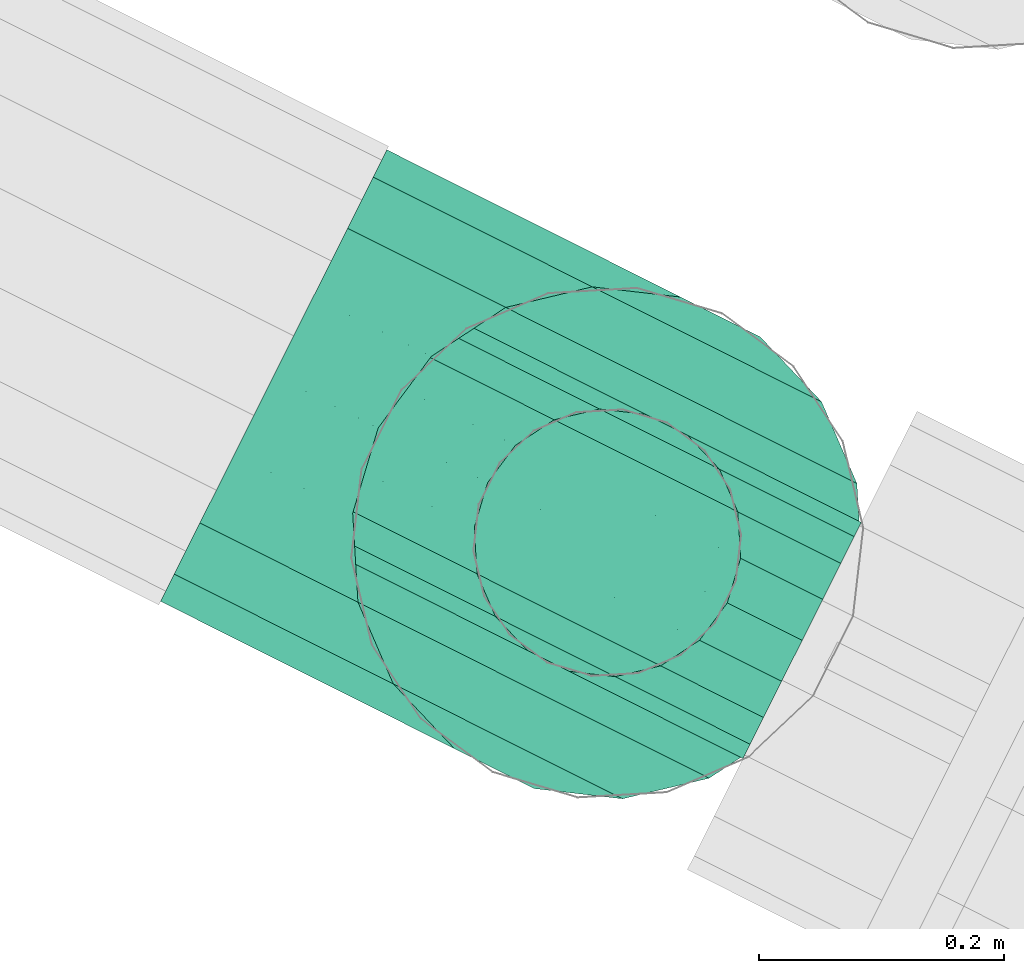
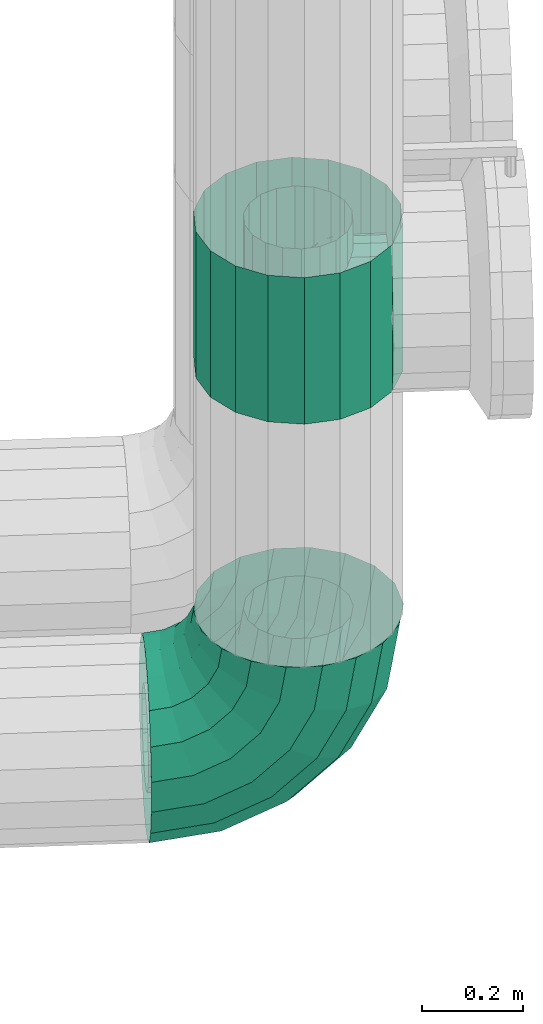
# One storey, part 6 of 11: 1 flow fitting, 1 flow segment.
"""IFC2X3 building model written with IfcOpenShell, lengths in metres."""

from ifc_helpers import new_model, si_unit, derived_unit, direction, frame, origin, place, context, subcontext, project, spatial, face_set, surface_model, source, transform, mapped, material, type_object, type_shapes, element, save


model = new_model("IFC2X3")

# Units and contexts
model_context = context("Model", 3, precision=5.2338327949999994e-05, world=origin(), true_north=direction((0.0, 1.0)))
body_context = subcontext(model_context, "Body", "Model", "MODEL_VIEW")
ifc_project = project(units=[si_unit("LENGTHUNIT", "METRE"), si_unit("AREAUNIT", "SQUARE_METRE"), si_unit("VOLUMEUNIT", "CUBIC_METRE"), si_unit("MASSUNIT", "GRAM", prefix="KILO"), si_unit("PLANEANGLEUNIT", "RADIAN"), derived_unit("THERMALTRANSMITTANCEUNIT", [(si_unit("MASSUNIT", "GRAM", prefix="KILO"), 1), (si_unit("THERMODYNAMICTEMPERATUREUNIT", "KELVIN"), -1), (si_unit("TIMEUNIT", "SECOND"), -3)])], contexts=[model_context])

# Site, building, storey
site_placement = place(None, frame((0.0, 0.0, 0.0), z_axis=(0.0, 0.0, 1.0), x_axis=(0.8939966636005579, -0.4480736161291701, 0.0)))
site = spatial("IfcSite", under=ifc_project, at=site_placement, Name="Default", CompositionType="ELEMENT")
building_placement = place(site_placement, origin())
building = spatial("IfcBuilding", under=site, at=building_placement, CompositionType="ELEMENT")
storey_placement = place(building_placement, frame((0.0, 0.0, -2.7499999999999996)))
storey = spatial("IfcBuildingStorey", under=building, at=storey_placement, Name="1. Untergeschoss", CompositionType="ELEMENT", Elevation=-2.7499999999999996)

# Flow segment
ifc_material = material(Name="IfcSurfaceStyle #9317")
distribution_element_type_1 = type_object("IfcDistributionElementType", Name="Rohrbogen 852507:Rohrbogen 852507", material=ifc_material)
shared_shape_1 = source(origin(), body_context, "Body", "SurfaceModel", [
    surface_model("IfcFaceBasedSurfaceModel", [(1.0258199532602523, 7.3272083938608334, -1.774), (1.019213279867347, 7.2897400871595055, -1.774), (0.999247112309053, 7.2897400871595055, -1.9000614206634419), (1.0055304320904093, 7.3272083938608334, -1.9021029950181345), (0.9413030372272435, 7.289740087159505, -2.0137830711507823), (0.9466479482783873, 7.32720839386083, -2.0176663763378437), (0.8510530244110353, 7.289740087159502, -2.104033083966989), (0.8549363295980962, 7.32720839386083, -2.1093779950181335), (0.7373313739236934, 7.289740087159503, -2.161977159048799), (0.7393729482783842, 7.327208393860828, -2.168260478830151), (0.6112699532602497, 7.2897400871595, -2.181943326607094), (0.6112699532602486, 7.327208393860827, -2.1885499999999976), (1.0001901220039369, 7.256791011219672, -1.7739999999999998), (0.9811550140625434, 7.256791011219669, -1.8941829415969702), (0.9259129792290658, 7.256791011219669, -2.0026015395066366), (0.8398714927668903, 7.2567910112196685, -2.0886430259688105), (0.731452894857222, 7.256791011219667, -2.1438850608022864), (0.611269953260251, 7.256791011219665, -2.162920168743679), (0.971044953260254, 7.2323353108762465, -1.7739999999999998), (0.9534363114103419, 7.2323353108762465, -1.8851765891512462), (0.9023340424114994, 7.232335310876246, -1.9854704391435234), (0.8227403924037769, 7.232335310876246, -2.065064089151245), (0.7224465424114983, 7.232335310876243, -2.116166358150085), (0.6112699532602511, 7.232335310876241, -2.1337749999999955), (0.9352931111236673, 7.219322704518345, -1.7739999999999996), (0.919434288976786, 7.219322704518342, -1.87412866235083), (0.873410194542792, 7.219322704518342, -1.9644560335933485), (0.8017259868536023, 7.2193227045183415, -2.036140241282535), (0.7113986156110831, 7.2193227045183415, -2.0821643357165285), (0.6112699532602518, 7.21932270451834, -2.098023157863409), (0.8972467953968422, 7.219322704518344, -1.773999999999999), (0.8832500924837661, 7.219322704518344, -1.8623717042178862), (0.842630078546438, 7.219322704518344, -1.9420929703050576), (0.7793629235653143, 7.2193227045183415, -2.00536012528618), (0.6996416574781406, 7.2193227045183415, -2.04598013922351), (0.6112699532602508, 7.219322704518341, -2.059976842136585), (0.8614949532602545, 7.232335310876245, -1.7739999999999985), (0.8492480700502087, 7.232335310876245, -1.8513237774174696), (0.8137062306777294, 7.232335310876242, -1.9210785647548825), (0.7583485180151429, 7.232335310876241, -1.9764362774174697), (0.6885937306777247, 7.232335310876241, -2.011978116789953), (0.6112699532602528, 7.232335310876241, -2.024224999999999), (0.8323497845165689, 7.2567910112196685, -1.773999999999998), (0.8215293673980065, 7.256791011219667, -1.8423174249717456), (0.7901272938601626, 7.256791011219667, -1.903947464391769), (0.7412174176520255, 7.2567910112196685, -1.9528573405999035), (0.6795873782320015, 7.256791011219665, -1.9842594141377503), (0.6112699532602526, 7.256791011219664, -1.9950798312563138), (0.8133266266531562, 7.289740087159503, -1.7739999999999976), (0.8034372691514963, 7.289740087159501, -1.8364389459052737), (0.7747372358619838, 7.289740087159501, -1.8927659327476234), (0.7300358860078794, 7.289740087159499, -1.9374672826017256), (0.6737088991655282, 7.2897400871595, -1.9661673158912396), (0.6112699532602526, 7.289740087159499, -1.976056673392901), (0.8067199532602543, 7.327208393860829, -1.7739999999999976), (0.7971539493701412, 7.327208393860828, -1.8343973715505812), (0.7693923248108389, 7.327208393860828, -1.8888826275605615), (0.7261525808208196, 7.3272083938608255, -1.932122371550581), (0.6716673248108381, 7.327208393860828, -1.9598839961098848), (0.6112699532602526, 7.3272083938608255, -1.9694499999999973), (0.8133266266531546, 7.364676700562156, -1.7739999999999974), (0.8034372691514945, 7.3646767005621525, -1.8364389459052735), (0.7747372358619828, 7.364676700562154, -1.892765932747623), (0.7300358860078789, 7.364676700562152, -1.9374672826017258), (0.673708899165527, 7.3646767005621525, -1.9661673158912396), (0.6112699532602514, 7.364676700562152, -1.9760566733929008), (0.8323497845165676, 7.3976257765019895, -1.7739999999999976), (0.8215293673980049, 7.397625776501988, -1.8423174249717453), (0.7901272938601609, 7.397625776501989, -1.903947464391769), (0.7412174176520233, 7.397625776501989, -1.9528573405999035), (0.6795873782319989, 7.397625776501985, -1.984259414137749), (0.6112699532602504, 7.397625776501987, -1.9950798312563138), (0.8614949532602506, 7.422081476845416, -1.7739999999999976), (0.8492480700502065, 7.422081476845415, -1.8513237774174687), (0.8137062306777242, 7.422081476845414, -1.9210785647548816), (0.758348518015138, 7.422081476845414, -1.976436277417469), (0.6885937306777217, 7.4220814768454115, -2.0119781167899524), (0.6112699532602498, 7.4220814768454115, -2.024224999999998), (0.8972467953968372, 7.435094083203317, -1.7739999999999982), (0.8832500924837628, 7.435094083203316, -1.8623717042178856), (0.842630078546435, 7.435094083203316, -1.9420929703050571), (0.7793629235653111, 7.435094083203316, -2.0053601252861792), (0.6996416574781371, 7.435094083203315, -2.04598013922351), (0.6112699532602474, 7.435094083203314, -2.0599768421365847), (0.9352931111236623, 7.4350940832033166, -1.7739999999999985), (0.9194342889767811, 7.4350940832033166, -1.874128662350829), (0.8734101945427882, 7.435094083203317, -1.9644560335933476), (0.8017259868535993, 7.4350940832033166, -2.036140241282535), (0.7113986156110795, 7.435094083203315, -2.0821643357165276), (0.6112699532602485, 7.435094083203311, -2.0980231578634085), (0.9710449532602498, 7.422081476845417, -1.773999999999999), (0.9534363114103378, 7.422081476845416, -1.8851765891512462), (0.9023340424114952, 7.422081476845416, -1.9854704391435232), (0.8227403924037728, 7.422081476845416, -2.065064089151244), (0.7224465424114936, 7.422081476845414, -2.1161663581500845), (0.6112699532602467, 7.422081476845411, -2.1337749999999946), (1.0001901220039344, 7.39762577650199, -1.7739999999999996), (0.9811550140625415, 7.397625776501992, -1.89418294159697), (0.9259129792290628, 7.397625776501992, -2.0026015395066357), (0.8398714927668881, 7.3976257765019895, -2.0886430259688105), (0.7314528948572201, 7.397625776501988, -2.1438850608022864), (0.6112699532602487, 7.397625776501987, -2.162920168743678), (1.0192132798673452, 7.364676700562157, -1.7739999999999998), (0.9992471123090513, 7.364676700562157, -1.9000614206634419), (0.9413030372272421, 7.364676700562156, -2.0137830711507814), (0.8510530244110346, 7.364676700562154, -2.1040330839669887), (0.7373313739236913, 7.364676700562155, -2.1619771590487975), (0.6112699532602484, 7.364676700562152, -2.181943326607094), (1.1258199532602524, 7.3272083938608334, -1.7740000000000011), (1.1131825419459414, 7.2555380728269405, -1.7740000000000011), (1.0886171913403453, 7.2555380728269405, -1.9290995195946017), (1.100636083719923, 7.3272083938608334, -1.9330046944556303), (1.0173257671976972, 7.25553807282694, -2.069016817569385), (1.0275496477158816, 7.327208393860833, -2.0764449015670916), (0.9062867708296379, 7.255538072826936, -2.1800558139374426), (0.9137148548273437, 7.327208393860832, -2.190279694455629), (0.7663694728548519, 7.255538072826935, -2.2513472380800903), (0.7702746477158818, 7.327208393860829, -2.263366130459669), (0.6112699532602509, 7.255538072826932, -2.2759125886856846), (0.6112699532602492, 7.327208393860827, -2.288549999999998), (1.076794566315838, 7.19251225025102, -1.774000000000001), (1.0540101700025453, 7.192512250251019, -1.9178550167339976), (0.9878872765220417, 7.192512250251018, -2.047628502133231), (0.8848984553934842, 7.192512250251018, -2.1506173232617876), (0.755124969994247, 7.192512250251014, -2.216740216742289), (0.611269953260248, 7.1925122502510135, -2.2395246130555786), (1.0210449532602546, 7.145732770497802, -1.7740000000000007), (1.0009891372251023, 7.1457327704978, -1.9006274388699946), (0.9427848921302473, 7.1457327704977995, -2.0148597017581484), (0.8521296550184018, 7.1457327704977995, -2.105514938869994), (0.7378973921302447, 7.145732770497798, -2.1637191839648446), (0.6112699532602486, 7.145732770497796, -2.183774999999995), (0.9526579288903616, 7.120841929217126, -1.7739999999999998), (0.9359492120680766, 7.120841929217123, -1.8794946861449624), (0.8874586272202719, 7.120841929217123, -1.974662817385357), (0.8119327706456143, 7.120841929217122, -2.050188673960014), (0.7167646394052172, 7.12084192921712, -2.0986792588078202), (0.6112699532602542, 7.120841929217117, -2.115387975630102), (0.8798819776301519, 7.1208419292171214, -1.7739999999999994), (0.8667351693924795, 7.120841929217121, -1.857005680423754), (0.82858164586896, 7.1208419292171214, -1.931886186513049), (0.7691561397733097, 7.1208419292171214, -1.9913116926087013), (0.6942756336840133, 7.120841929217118, -2.0294652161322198), (0.6112699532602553, 7.12084192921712, -2.0426120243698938), (0.8114949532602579, 7.1457327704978, -1.7739999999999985), (0.8016952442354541, 7.145732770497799, -1.8358729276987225), (0.7732553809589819, 7.145732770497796, -1.891689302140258), (0.7289592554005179, 7.145732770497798, -1.9359854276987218), (0.67314288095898, 7.145732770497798, -1.9644252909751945), (0.6112699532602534, 7.145732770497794, -1.9742249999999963), (0.755745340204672, 7.1925122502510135, -1.7739999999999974), (0.7486742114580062, 7.192512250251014, -1.8186453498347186), (0.7281529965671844, 7.192512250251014, -1.8589205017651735), (0.6961904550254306, 7.192512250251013, -1.8908830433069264), (0.6559153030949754, 7.192512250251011, -1.9114042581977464), (0.6112699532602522, 7.192512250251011, -1.9184753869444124), (0.7193573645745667, 7.255538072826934, -1.773999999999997), (0.7140671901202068, 7.255538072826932, -1.8074008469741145), (0.6987145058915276, 7.2555380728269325, -1.8375321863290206), (0.6748021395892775, 7.2555380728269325, -1.8614445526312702), (0.6446708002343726, 7.2555380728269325, -1.8767972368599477), (0.6112699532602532, 7.255538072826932, -1.8820874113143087), (0.7067199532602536, 7.327208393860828, -1.773999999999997), (0.7020482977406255, 7.3272083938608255, -1.8034956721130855), (0.6884906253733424, 7.327208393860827, -1.8301041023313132), (0.66737405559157, 7.327208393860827, -1.8512206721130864), (0.6407656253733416, 7.327208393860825, -1.864778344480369), (0.6112699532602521, 7.327208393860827, -1.8694499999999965), (0.719357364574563, 7.398878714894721, -1.773999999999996), (0.7140671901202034, 7.398878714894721, -1.8074008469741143), (0.6987145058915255, 7.398878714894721, -1.8375321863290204), (0.6748021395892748, 7.39887871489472, -1.8614445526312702), (0.6446708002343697, 7.39887871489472, -1.8767972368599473), (0.6112699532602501, 7.39887871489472, -1.8820874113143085), (0.7557453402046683, 7.461904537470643, -1.773999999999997), (0.7486742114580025, 7.461904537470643, -1.8186453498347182), (0.7281529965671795, 7.461904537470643, -1.8589205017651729), (0.6961904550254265, 7.461904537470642, -1.8908830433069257), (0.6559153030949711, 7.461904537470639, -1.911404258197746), (0.6112699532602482, 7.461904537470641, -1.918475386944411), (0.8114949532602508, 7.508684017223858, -1.7739999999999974), (0.8016952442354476, 7.508684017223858, -1.8358729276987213), (0.7732553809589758, 7.508684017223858, -1.891689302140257), (0.7289592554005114, 7.508684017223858, -1.9359854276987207), (0.6731428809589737, 7.508684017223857, -1.9644252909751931), (0.6112699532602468, 7.508684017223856, -1.9742249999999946), (0.8798819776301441, 7.53357485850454, -1.7739999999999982), (0.8667351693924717, 7.533574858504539, -1.8570056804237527), (0.8285816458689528, 7.533574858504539, -1.9318861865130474), (0.7691561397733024, 7.533574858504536, -1.9913116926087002), (0.6942756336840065, 7.533574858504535, -2.0294652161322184), (0.6112699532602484, 7.533574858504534, -2.042612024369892), (0.9526579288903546, 7.533574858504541, -1.7739999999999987), (0.9359492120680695, 7.5335748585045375, -1.8794946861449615), (0.8874586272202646, 7.533574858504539, -1.9746628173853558), (0.8119327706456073, 7.533574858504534, -2.0501886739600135), (0.71676463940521, 7.533574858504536, -2.0986792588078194), (0.6112699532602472, 7.533574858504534, -2.1153879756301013), (1.0210449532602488, 7.508684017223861, -1.7739999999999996), (1.0009891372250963, 7.508684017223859, -1.9006274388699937), (0.9427848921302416, 7.5086840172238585, -2.0148597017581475), (0.8521296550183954, 7.508684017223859, -2.1055149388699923), (0.7378973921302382, 7.508684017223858, -2.163719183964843), (0.6112699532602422, 7.508684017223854, -2.1837749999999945), (1.076794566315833, 7.461904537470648, -1.774), (1.0540101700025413, 7.461904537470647, -1.9178550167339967), (0.9878872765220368, 7.461904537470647, -2.047628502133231), (0.8848984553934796, 7.461904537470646, -2.1506173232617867), (0.7551249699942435, 7.461904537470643, -2.2167402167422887), (0.6112699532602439, 7.461904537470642, -2.2395246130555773), (1.1131825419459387, 7.398878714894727, -1.7740000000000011), (1.0886171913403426, 7.398878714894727, -1.9290995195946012), (1.0173257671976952, 7.398878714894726, -2.0690168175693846), (0.9062867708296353, 7.3988787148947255, -2.1800558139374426), (0.7663694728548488, 7.398878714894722, -2.251347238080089), (0.6112699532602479, 7.398878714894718, -2.275912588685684)], [face_set([[[0, 1, 2, 3]], [[3, 2, 4, 5]], [[5, 4, 6, 7]], [[7, 6, 8, 9]], [[9, 8, 10, 11]], [[1, 12, 13, 2]], [[2, 13, 14, 4]], [[4, 14, 15, 6]], [[6, 15, 16, 8]], [[8, 16, 17, 10]], [[12, 18, 19, 13]], [[13, 19, 20, 14]], [[14, 20, 21, 15]], [[15, 21, 22, 16]], [[16, 22, 23, 17]], [[18, 24, 25, 19]], [[19, 25, 26, 20]], [[20, 26, 27, 21]], [[21, 27, 28, 22]], [[22, 28, 29, 23]], [[24, 30, 31, 25]], [[25, 31, 32, 26]], [[26, 32, 33, 27]], [[27, 33, 34, 28]], [[28, 34, 35, 29]], [[30, 36, 37, 31]], [[31, 37, 38, 32]], [[32, 38, 39, 33]], [[33, 39, 40, 34]], [[34, 40, 41, 35]], [[36, 42, 43, 37]], [[37, 43, 44, 38]], [[38, 44, 45, 39]], [[39, 45, 46, 40]], [[40, 46, 47, 41]], [[42, 48, 49, 43]], [[43, 49, 50, 44]], [[44, 50, 51, 45]], [[45, 51, 52, 46]], [[46, 52, 53, 47]], [[48, 54, 55, 49]], [[49, 55, 56, 50]], [[50, 56, 57, 51]], [[51, 57, 58, 52]], [[52, 58, 59, 53]], [[54, 60, 61, 55]], [[55, 61, 62, 56]], [[56, 62, 63, 57]], [[57, 63, 64, 58]], [[58, 64, 65, 59]], [[60, 66, 67, 61]], [[61, 67, 68, 62]], [[62, 68, 69, 63]], [[63, 69, 70, 64]], [[64, 70, 71, 65]], [[66, 72, 73, 67]], [[67, 73, 74, 68]], [[68, 74, 75, 69]], [[69, 75, 76, 70]], [[70, 76, 77, 71]], [[72, 78, 79, 73]], [[73, 79, 80, 74]], [[74, 80, 81, 75]], [[75, 81, 82, 76]], [[76, 82, 83, 77]], [[78, 84, 85, 79]], [[79, 85, 86, 80]], [[80, 86, 87, 81]], [[81, 87, 88, 82]], [[82, 88, 89, 83]], [[84, 90, 91, 85]], [[85, 91, 92, 86]], [[86, 92, 93, 87]], [[87, 93, 94, 88]], [[88, 94, 95, 89]], [[90, 96, 97, 91]], [[91, 97, 98, 92]], [[92, 98, 99, 93]], [[93, 99, 100, 94]], [[94, 100, 101, 95]], [[96, 102, 103, 97]], [[97, 103, 104, 98]], [[98, 104, 105, 99]], [[99, 105, 106, 100]], [[100, 106, 107, 101]], [[102, 0, 3, 103]], [[103, 3, 5, 104]], [[104, 5, 7, 105]], [[105, 7, 9, 106]], [[106, 9, 11, 107]], [[108, 109, 110, 111]], [[111, 110, 112, 113]], [[113, 112, 114, 115]], [[115, 114, 116, 117]], [[117, 116, 118, 119]], [[109, 120, 121, 110]], [[110, 121, 122, 112]], [[112, 122, 123, 114]], [[114, 123, 124, 116]], [[116, 124, 125, 118]], [[120, 126, 127, 121]], [[121, 127, 128, 122]], [[122, 128, 129, 123]], [[123, 129, 130, 124]], [[124, 130, 131, 125]], [[126, 132, 133, 127]], [[127, 133, 134, 128]], [[128, 134, 135, 129]], [[129, 135, 136, 130]], [[130, 136, 137, 131]], [[132, 138, 139, 133]], [[133, 139, 140, 134]], [[134, 140, 141, 135]], [[135, 141, 142, 136]], [[136, 142, 143, 137]], [[138, 144, 145, 139]], [[139, 145, 146, 140]], [[140, 146, 147, 141]], [[141, 147, 148, 142]], [[142, 148, 149, 143]], [[144, 150, 151, 145]], [[145, 151, 152, 146]], [[146, 152, 153, 147]], [[147, 153, 154, 148]], [[148, 154, 155, 149]], [[150, 156, 157, 151]], [[151, 157, 158, 152]], [[152, 158, 159, 153]], [[153, 159, 160, 154]], [[154, 160, 161, 155]], [[156, 162, 163, 157]], [[157, 163, 164, 158]], [[158, 164, 165, 159]], [[159, 165, 166, 160]], [[160, 166, 167, 161]], [[162, 168, 169, 163]], [[163, 169, 170, 164]], [[164, 170, 171, 165]], [[165, 171, 172, 166]], [[166, 172, 173, 167]], [[168, 174, 175, 169]], [[169, 175, 176, 170]], [[170, 176, 177, 171]], [[171, 177, 178, 172]], [[172, 178, 179, 173]], [[174, 180, 181, 175]], [[175, 181, 182, 176]], [[176, 182, 183, 177]], [[177, 183, 184, 178]], [[178, 184, 185, 179]], [[180, 186, 187, 181]], [[181, 187, 188, 182]], [[182, 188, 189, 183]], [[183, 189, 190, 184]], [[184, 190, 191, 185]], [[186, 192, 193, 187]], [[187, 193, 194, 188]], [[188, 194, 195, 189]], [[189, 195, 196, 190]], [[190, 196, 197, 191]], [[192, 198, 199, 193]], [[193, 199, 200, 194]], [[194, 200, 201, 195]], [[195, 201, 202, 196]], [[196, 202, 203, 197]], [[198, 204, 205, 199]], [[199, 205, 206, 200]], [[200, 206, 207, 201]], [[201, 207, 208, 202]], [[202, 208, 209, 203]], [[204, 210, 211, 205]], [[205, 211, 212, 206]], [[206, 212, 213, 207]], [[207, 213, 214, 208]], [[208, 214, 215, 209]], [[210, 108, 111, 211]], [[211, 111, 113, 212]], [[212, 113, 115, 213]], [[213, 115, 117, 214]], [[214, 117, 119, 215]]])]),
])
type_shapes(distribution_element_type_1, [shared_shape_1])
flow_segment_placement = place(storey_placement, frame((0.0, 0.0, 2.7499999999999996)))
element("IfcFlowSegment", 1, at=flow_segment_placement, inside=storey, type_object=distribution_element_type_1, material=ifc_material, Name="Rohrbogen", ObjectType="Rohrbogen", context=body_context, shape_type="MappedRepresentation", body=[
    mapped(shared_shape_1, transform((0.0, 0.0, 0.0), scale=1.0)),
])

# Flow fitting
distribution_element_type_2 = type_object("IfcDistributionElementType", Name="Abzweigstück 860787:Abzweigstück 860787", material=ifc_material)
shared_shape_2 = source(origin(), body_context, "Body", "SurfaceModel", [
    surface_model("IfcFaceBasedSurfaceModel", [(0.9162699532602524, 7.436758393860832, -1.1831073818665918), (0.8788016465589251, 7.430151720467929, -1.1831073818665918), (0.8788016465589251, 7.430151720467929, -0.8271073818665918), (0.9162699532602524, 7.436758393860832, -0.8271073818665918), (0.8458525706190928, 7.411128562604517, -1.1831073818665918), (0.8458525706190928, 7.411128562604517, -0.8271073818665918), (0.821396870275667, 7.381983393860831, -1.1831073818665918), (0.821396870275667, 7.381983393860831, -0.8271073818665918), (0.8083842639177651, 7.346231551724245, -1.1831073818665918), (0.8083842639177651, 7.346231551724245, -0.8271073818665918), (0.8083842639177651, 7.3081852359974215, -1.1831073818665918), (0.8083842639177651, 7.3081852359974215, -0.8271073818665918), (0.8213968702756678, 7.272433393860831, -1.1831073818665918), (0.8213968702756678, 7.272433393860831, -0.8271073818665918), (0.8458525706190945, 7.243288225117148, -1.1831073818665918), (0.8458525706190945, 7.243288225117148, -0.8271073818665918), (0.8788016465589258, 7.224265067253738, -1.1831073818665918), (0.8788016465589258, 7.224265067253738, -0.8271073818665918), (0.9162699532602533, 7.217658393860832, -1.1831073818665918), (0.9162699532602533, 7.217658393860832, -0.8271073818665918), (0.9537382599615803, 7.224265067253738, -1.1831073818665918), (0.9537382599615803, 7.224265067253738, -0.8271073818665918), (0.9866873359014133, 7.243288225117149, -1.1831073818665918), (0.9866873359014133, 7.243288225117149, -0.8271073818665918), (1.011143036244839, 7.272433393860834, -1.1831073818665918), (1.011143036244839, 7.272433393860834, -0.8271073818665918), (1.02415564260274, 7.308185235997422, -1.1831073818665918), (1.02415564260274, 7.308185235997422, -0.8271073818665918), (1.0241556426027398, 7.346231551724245, -1.1831073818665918), (1.0241556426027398, 7.346231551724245, -0.8271073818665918), (1.011143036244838, 7.381983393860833, -1.1831073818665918), (1.011143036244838, 7.381983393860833, -0.8271073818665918), (0.9866873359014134, 7.411128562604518, -1.1831073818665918), (0.9866873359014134, 7.411128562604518, -0.8271073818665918), (0.9537382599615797, 7.43015172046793, -1.1831073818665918), (0.9537382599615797, 7.43015172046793, -0.8271073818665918), (0.916269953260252, 7.536758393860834, -1.1831073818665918), (0.8445996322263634, 7.524120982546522, -1.1831073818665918), (0.8445996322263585, 7.52412098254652, -0.8271073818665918), (0.9162699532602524, 7.536758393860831, -0.8271073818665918), (0.7815738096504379, 7.487733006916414, -1.1831073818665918), (0.7815738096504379, 7.487733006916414, -0.8271073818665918), (0.7347943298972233, 7.43198339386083, -1.1831073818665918), (0.7347943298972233, 7.43198339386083, -0.8271073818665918), (0.7099034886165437, 7.363596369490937, -1.1831073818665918), (0.7099034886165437, 7.363596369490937, -0.8271073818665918), (0.709903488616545, 7.290820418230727, -1.1831073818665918), (0.709903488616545, 7.290820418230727, -0.8271073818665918), (0.7347943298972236, 7.2224333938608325, -1.1831073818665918), (0.7347943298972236, 7.2224333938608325, -0.8271073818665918), (0.7815738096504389, 7.16668378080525, -1.1831073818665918), (0.7815738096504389, 7.16668378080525, -0.8271073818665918), (0.8445996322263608, 7.130295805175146, -1.1831073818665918), (0.8445996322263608, 7.130295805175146, -0.8271073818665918), (0.9162699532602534, 7.117658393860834, -1.1831073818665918), (0.9162699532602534, 7.117658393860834, -0.8271073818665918), (0.9879402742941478, 7.130295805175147, -1.1831073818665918), (0.9879402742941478, 7.130295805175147, -0.8271073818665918), (1.0509660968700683, 7.16668378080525, -1.1831073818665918), (1.0509660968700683, 7.16668378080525, -0.8271073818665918), (1.0977455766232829, 7.222433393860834, -1.1831073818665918), (1.0977455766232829, 7.222433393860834, -0.8271073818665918), (1.1226364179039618, 7.290820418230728, -1.1831073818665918), (1.1226364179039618, 7.290820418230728, -0.8271073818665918), (1.1226364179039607, 7.363596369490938, -1.1831073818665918), (1.1226364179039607, 7.363596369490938, -0.8271073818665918), (1.0977455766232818, 7.4319833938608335, -1.1831073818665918), (1.0977455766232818, 7.4319833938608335, -0.8271073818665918), (1.0509660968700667, 7.487733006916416, -1.1831073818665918), (1.0509660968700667, 7.487733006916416, -0.8271073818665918), (0.9879402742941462, 7.52412098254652, -1.1831073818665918), (0.9879402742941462, 7.52412098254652, -0.8271073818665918), (1.025819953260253, 7.32720839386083, -0.8955573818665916), (1.0192132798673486, 7.289740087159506, -0.9021640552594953), (1.094269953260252, 7.289740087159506, -0.9021640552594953), (1.0942699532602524, 7.327208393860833, -0.8955573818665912), (1.0001901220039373, 7.256791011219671, -0.9211872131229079), (1.0942699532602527, 7.256791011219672, -0.9211872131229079), (0.9710449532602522, 7.2323353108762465, -0.9503323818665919), (1.0942699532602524, 7.232335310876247, -0.950332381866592), (0.9352931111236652, 7.219322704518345, -0.9860842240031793), (1.094269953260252, 7.219322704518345, -0.9860842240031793), (0.9352931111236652, 7.219322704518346, -1.024130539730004), (1.094269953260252, 7.219322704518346, -1.024130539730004), (0.9710449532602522, 7.2323353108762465, -1.059882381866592), (1.0942699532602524, 7.232335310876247, -1.059882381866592), (1.0001901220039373, 7.256791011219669, -1.0890275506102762), (1.0942699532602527, 7.256791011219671, -1.0890275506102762), (1.0192132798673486, 7.289740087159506, -1.108050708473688), (1.094269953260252, 7.289740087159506, -1.108050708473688), (1.025819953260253, 7.32720839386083, -1.1146573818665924), (1.0942699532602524, 7.327208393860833, -1.1146573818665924), (1.0192132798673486, 7.36467670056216, -1.1080507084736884), (1.094269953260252, 7.36467670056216, -1.1080507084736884), (1.000190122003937, 7.397625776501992, -1.089027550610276), (1.0942699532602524, 7.397625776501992, -1.089027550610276), (0.9710449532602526, 7.422081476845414, -1.0598823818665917), (1.0942699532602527, 7.422081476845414, -1.0598823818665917), (0.9352931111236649, 7.43509408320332, -1.024130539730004), (1.094269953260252, 7.43509408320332, -1.024130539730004), (0.9352931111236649, 7.43509408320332, -0.9860842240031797), (1.094269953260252, 7.43509408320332, -0.9860842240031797), (0.9710449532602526, 7.422081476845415, -0.9503323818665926), (1.0942699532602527, 7.422081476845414, -0.9503323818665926), (1.000190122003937, 7.397625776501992, -0.9211872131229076), (1.0942699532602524, 7.397625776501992, -0.9211872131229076), (1.0192132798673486, 7.36467670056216, -0.9021640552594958), (1.094269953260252, 7.36467670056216, -0.902164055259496)], [face_set([[[0, 1, 2, 3]], [[1, 4, 5, 2]], [[4, 6, 7, 5]], [[6, 8, 9, 7]], [[8, 10, 11, 9]], [[10, 12, 13, 11]], [[12, 14, 15, 13]], [[14, 16, 17, 15]], [[16, 18, 19, 17]], [[18, 20, 21, 19]], [[20, 22, 23, 21]], [[22, 24, 25, 23]], [[24, 26, 27, 25]], [[26, 28, 29, 27]], [[28, 30, 31, 29]], [[30, 32, 33, 31]], [[32, 34, 35, 33]], [[34, 0, 3, 35]], [[36, 37, 38, 39]], [[37, 40, 41, 38]], [[40, 42, 43, 41]], [[42, 44, 45, 43]], [[44, 46, 47, 45]], [[46, 48, 49, 47]], [[48, 50, 51, 49]], [[50, 52, 53, 51]], [[52, 54, 55, 53]], [[54, 56, 57, 55]], [[56, 58, 59, 57]], [[58, 60, 61, 59]], [[60, 62, 63, 61]], [[62, 64, 65, 63]], [[64, 66, 67, 65]], [[66, 68, 69, 67]], [[68, 70, 71, 69]], [[70, 36, 39, 71]], [[72, 73, 74, 75]], [[73, 76, 77, 74]], [[76, 78, 79, 77]], [[78, 80, 81, 79]], [[80, 82, 83, 81]], [[82, 84, 85, 83]], [[84, 86, 87, 85]], [[86, 88, 89, 87]], [[88, 90, 91, 89]], [[90, 92, 93, 91]], [[92, 94, 95, 93]], [[94, 96, 97, 95]], [[96, 98, 99, 97]], [[98, 100, 101, 99]], [[100, 102, 103, 101]], [[102, 104, 105, 103]], [[104, 106, 107, 105]], [[106, 72, 75, 107]]])]),
])
type_shapes(distribution_element_type_2, [shared_shape_2])
flow_fitting_placement = place(storey_placement, frame((0.0, 0.0, 2.7499999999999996)))
element("IfcFlowFitting", 2, at=flow_fitting_placement, inside=storey, type_object=distribution_element_type_2, material=ifc_material, Name="Abzweigstück", ObjectType="Abzweigstück", context=body_context, shape_type="MappedRepresentation", body=[
    mapped(shared_shape_2, transform((0.0, 0.0, 0.0), scale=1.0)),
])

save(model, "model.ifc")
